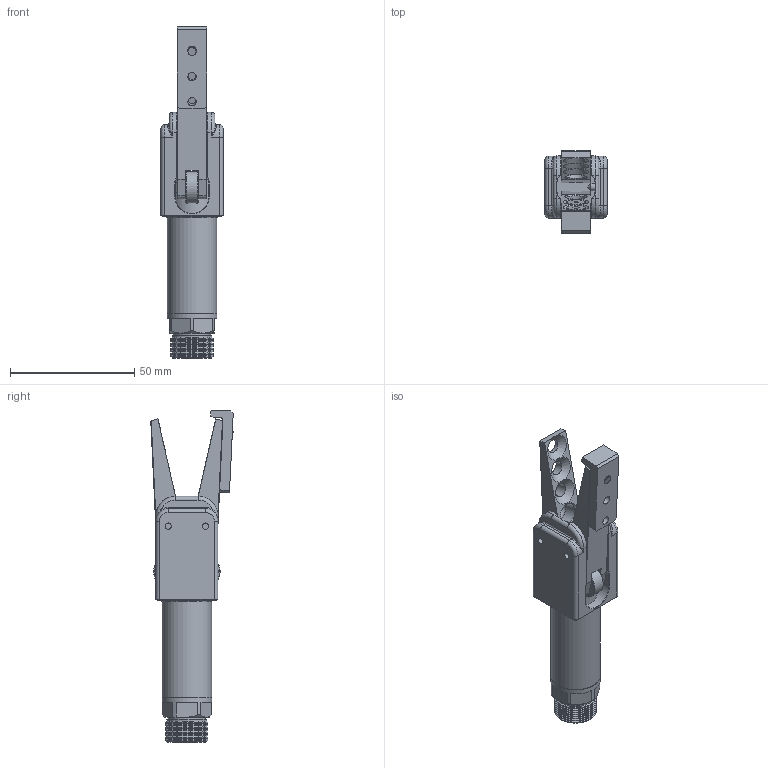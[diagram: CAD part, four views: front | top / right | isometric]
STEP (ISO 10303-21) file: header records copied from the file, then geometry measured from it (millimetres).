
FILE_DESCRIPTION(/* description */ (''),/* implementation_level */ '2;1');
FILE_NAME(/* name */ 'GRT20E.stp',/* time_stamp */ '2023-03-09T11:22:18+08:00',/* author */ (''),/* organization */ (''),/* preprocessor_version */ 'ST-DEVELOPER v16',/* originating_system */ 'SIEMENS PLM Software NX 10.0',/* authorisation */ '');
FILE_SCHEMA (('AUTOMOTIVE_DESIGN { 1 0 10303 214 3 1 1 1 }'));
Length unit declared in the file: millimetre
Products named in the file (1): Admi115498B06jvf
Bounding box: 25 x 33.23 x 133.78 mm (x, y, z)
Volume: 41779.8 mm3; surface area: 16601.8 mm2
Topology: 2 solids, 8 shells, 442 faces, 1146 edges, 718 vertices
Faces by surface type: plane 212, cylinder 118, cone 77, torus 27, bspline 8
Full cylindrical faces by diameter (mm): 0.5 x1, 2 x1, 2.5 x2, 3 x2, 3.3 x2, 3.4 x1, 4 x11, 5.5 x6, 6 x1, 7.53 x3, 8 x2, 8.8 x1, 15 x1, 16 x1, 17 x8, 20 x2
Entity records: 13664 total; most frequent: CARTESIAN_POINT 3676, DIRECTION 2028, ORIENTED_EDGE 1980, EDGE_CURVE 990, AXIS2_PLACEMENT_3D 764, VERTEX_POINT 671, EDGE_LOOP 573, LINE 500
